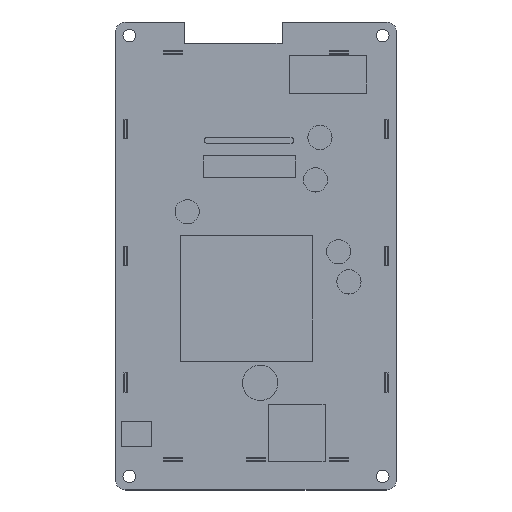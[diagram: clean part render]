
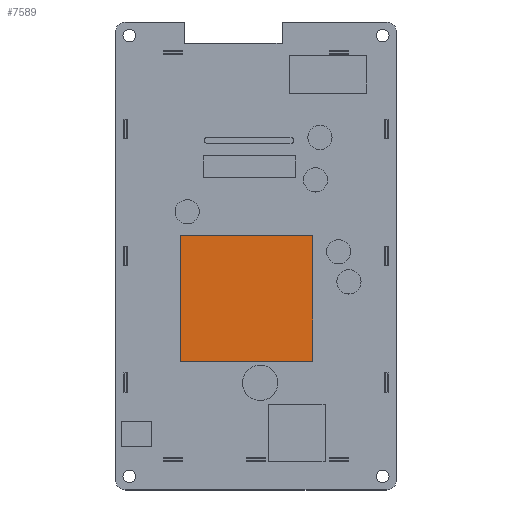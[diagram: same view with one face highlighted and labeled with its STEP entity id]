
A CAD part, top view. The second image highlights one B-rep face of the part: STEP entity #7589.
In plain terms, the highlighted planar face has unit normal (0, 0, 1).
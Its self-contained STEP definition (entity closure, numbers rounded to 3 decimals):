
#2322=DIRECTION('',(-1.,0.,0.));
#2323=VECTOR('',#2322,34.417);
#2324=CARTESIAN_POINT('',(14.783,5.334,5.2));
#2325=LINE('',#2324,#2323);
#2326=DIRECTION('',(0.,1.,0.));
#2327=VECTOR('',#2326,32.766);
#2328=CARTESIAN_POINT('',(14.783,-27.432,5.2));
#2329=LINE('',#2328,#2327);
#2330=DIRECTION('',(1.,0.,0.));
#2331=VECTOR('',#2330,34.417);
#2332=CARTESIAN_POINT('',(-19.634,-27.432,5.2));
#2333=LINE('',#2332,#2331);
#2334=DIRECTION('',(0.,-1.,0.));
#2335=VECTOR('',#2334,32.766);
#2336=CARTESIAN_POINT('',(-19.634,5.334,5.2));
#2337=LINE('',#2336,#2335);
#2768=CARTESIAN_POINT('',(14.783,5.334,5.2));
#2769=CARTESIAN_POINT('',(-19.634,5.334,5.2));
#2770=VERTEX_POINT('',#2768);
#2771=VERTEX_POINT('',#2769);
#2772=CARTESIAN_POINT('',(-19.634,-27.432,5.2));
#2773=VERTEX_POINT('',#2772);
#2774=CARTESIAN_POINT('',(14.783,-27.432,5.2));
#2775=VERTEX_POINT('',#2774);
#7578=CARTESIAN_POINT('',(-36.576,58.42,5.2));
#7579=DIRECTION('',(0.,0.,1.));
#7580=DIRECTION('',(0.,-1.,0.));
#7581=AXIS2_PLACEMENT_3D('',#7578,#7579,#7580);
#7582=PLANE('',#7581);
#7583=ORIENTED_EDGE('',*,*,#7502,.F.);
#7584=ORIENTED_EDGE('',*,*,#7524,.F.);
#7585=ORIENTED_EDGE('',*,*,#7545,.F.);
#7586=ORIENTED_EDGE('',*,*,#7565,.F.);
#7587=EDGE_LOOP('',(#7583,#7584,#7585,#7586));
#7588=FACE_OUTER_BOUND('',#7587,.F.);
#7502=EDGE_CURVE('',#2770,#2771,#2325,.T.);
#7524=EDGE_CURVE('',#2775,#2770,#2329,.T.);
#7545=EDGE_CURVE('',#2773,#2775,#2333,.T.);
#7565=EDGE_CURVE('',#2771,#2773,#2337,.T.);
#7589=ADVANCED_FACE('',(#7588),#7582,.T.);
